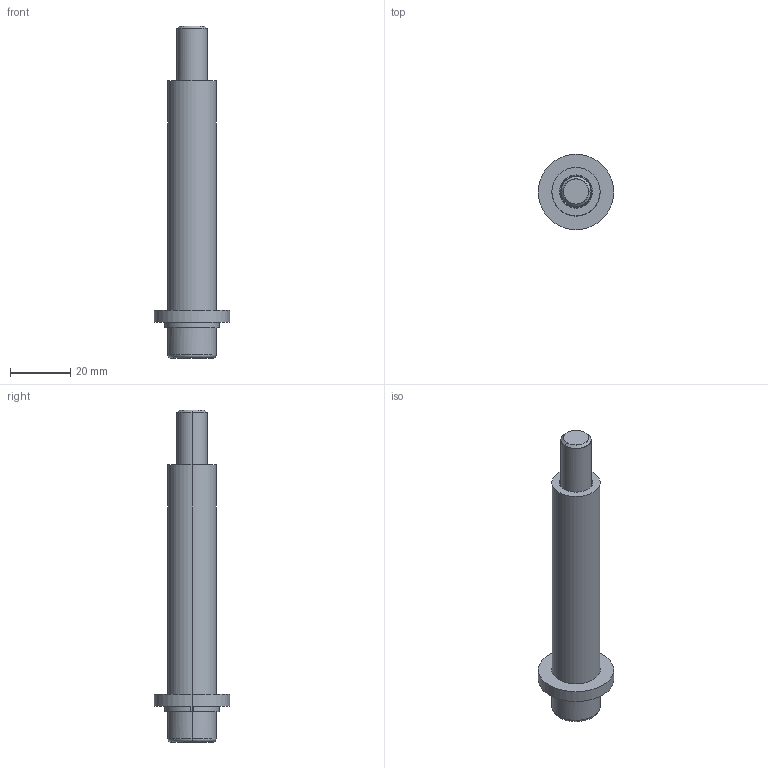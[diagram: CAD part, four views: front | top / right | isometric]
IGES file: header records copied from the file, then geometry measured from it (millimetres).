
Start section: START RECORD GO HERE.
Global section: file name: M312-03-10.igs; native system: DASSAULT SYSTEMES CATIA V5 R20 - www.3ds.com; preprocessor: CATIA Version 5 Release 20 ; author: Utente; organization: NB04-ASUS; date: 20201204.202153; units: millimetre
Bounding box: 25 x 25 x 110 mm (x, y, z)
Surface area: 11840.6 mm2 (no closed solid volume)
Topology: 0 solids, 0 shells, 50 faces, 226 edges, 224 vertices
Faces by surface type: revolution 28, plane 22
